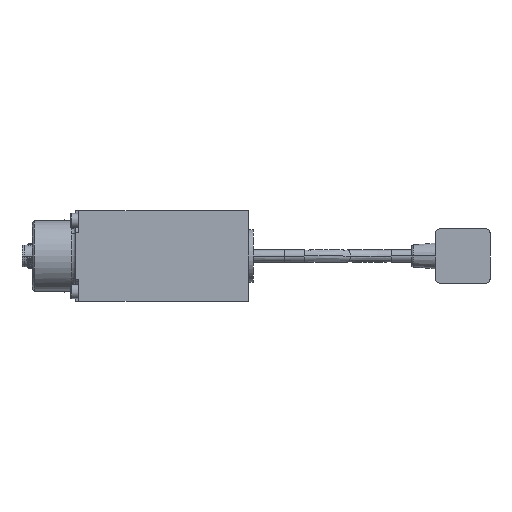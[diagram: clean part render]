
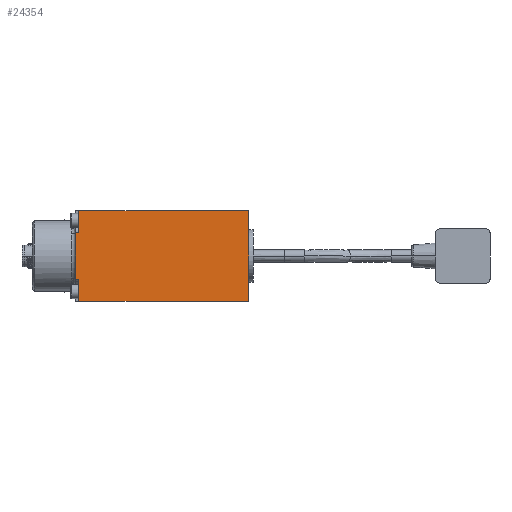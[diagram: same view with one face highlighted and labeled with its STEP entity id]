
A CAD part, front view. The second image highlights one B-rep face of the part: STEP entity #24354.
In plain terms, the highlighted planar face has unit normal (0, -1, 0).
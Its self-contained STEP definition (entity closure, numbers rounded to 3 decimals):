
#6593 = ORIENTED_EDGE ( 'NONE', *, *, #104221, .F. ) ;
#6595 = ORIENTED_EDGE ( 'NONE', *, *, #104079, .T. ) ;
#6597 = ORIENTED_EDGE ( 'NONE', *, *, #104219, .T. ) ;
#6599 = ORIENTED_EDGE ( 'NONE', *, *, #104223, .F. ) ;
#6601 = ORIENTED_EDGE ( 'NONE', *, *, #104202, .F. ) ;
#6603 = ORIENTED_EDGE ( 'NONE', *, *, #104225, .F. ) ;
#6605 = ORIENTED_EDGE ( 'NONE', *, *, #104228, .F. ) ;
#6609 = ORIENTED_EDGE ( 'NONE', *, *, #104214, .T. ) ;
#24354 = ADVANCED_FACE ( 'NONE', ( #97777 ), #99450, .F. ) ;
#47560 = EDGE_LOOP ( 'NONE', ( #6593, #6597, #6595, #6599, #6603, #6601, #6605, #6609 ) ) ;
#54880 = VERTEX_POINT ( 'NONE', #123850 ) ;
#54881 = VERTEX_POINT ( 'NONE', #123851 ) ;
#54918 = VERTEX_POINT ( 'NONE', #123888 ) ;
#54920 = VERTEX_POINT ( 'NONE', #123890 ) ;
#54923 = VERTEX_POINT ( 'NONE', #123893 ) ;
#54924 = VERTEX_POINT ( 'NONE', #123894 ) ;
#54925 = VERTEX_POINT ( 'NONE', #123895 ) ;
#54926 = VERTEX_POINT ( 'NONE', #123896 ) ;
#97777 = FACE_OUTER_BOUND ( 'NONE', #47560, .T. ) ;
#97786 = AXIS2_PLACEMENT_3D ( 'NONE', #99451, #99452, #99453 ) ;
#99450 = PLANE ( 'NONE',  #97786 ) ;
#99451 = CARTESIAN_POINT ( 'NONE',  ( 86., -22.5, 22.5 ) ) ;
#99452 = DIRECTION ( 'NONE',  ( 0., 1., 0. ) ) ;
#99453 = DIRECTION ( 'NONE',  ( 0., 0., 1. ) ) ;
#104079 = EDGE_CURVE ( 'NONE', #54881, #54880, #124220, .T. ) ;
#104202 = EDGE_CURVE ( 'NONE', #54920, #54918, #124382, .T. ) ;
#104214 = EDGE_CURVE ( 'NONE', #54924, #54923, #124397, .T. ) ;
#104219 = EDGE_CURVE ( 'NONE', #54925, #54881, #124403, .T. ) ;
#104221 = EDGE_CURVE ( 'NONE', #54925, #54923, #124406, .T. ) ;
#104223 = EDGE_CURVE ( 'NONE', #54926, #54880, #124409, .T. ) ;
#104225 = EDGE_CURVE ( 'NONE', #54918, #54926, #124412, .T. ) ;
#104228 = EDGE_CURVE ( 'NONE', #54924, #54920, #124415, .T. ) ;
#107862 = VECTOR ( 'NONE', #124222, 1000. ) ;
#107991 = VECTOR ( 'NONE', #124384, 1000. ) ;
#108006 = VECTOR ( 'NONE', #124399, 1000. ) ;
#108012 = VECTOR ( 'NONE', #124405, 1000. ) ;
#108014 = VECTOR ( 'NONE', #124408, 1000. ) ;
#108017 = VECTOR ( 'NONE', #124411, 1000. ) ;
#108020 = VECTOR ( 'NONE', #124414, 1000. ) ;
#108024 = VECTOR ( 'NONE', #124417, 1000. ) ;
#123850 = CARTESIAN_POINT ( 'NONE',  ( 0., -22.5, -11.68 ) ) ;
#123851 = CARTESIAN_POINT ( 'NONE',  ( 0., -22.5, 11.68 ) ) ;
#123888 = CARTESIAN_POINT ( 'NONE',  ( 1.5, -22.5, -22.5 ) ) ;
#123890 = CARTESIAN_POINT ( 'NONE',  ( 86., -22.5, -22.5 ) ) ;
#123893 = CARTESIAN_POINT ( 'NONE',  ( 1.5, -22.5, 22.5 ) ) ;
#123894 = CARTESIAN_POINT ( 'NONE',  ( 86., -22.5, 22.5 ) ) ;
#123895 = CARTESIAN_POINT ( 'NONE',  ( 1.5, -22.5, 11.68 ) ) ;
#123896 = CARTESIAN_POINT ( 'NONE',  ( 1.5, -22.5, -11.68 ) ) ;
#124220 = LINE ( 'NONE', #124221, #107862 ) ;
#124221 = CARTESIAN_POINT ( 'NONE',  ( 0., -22.5, 22.5 ) ) ;
#124222 = DIRECTION ( 'NONE',  ( 0., 0., -1. ) ) ;
#124382 = LINE ( 'NONE', #124383, #107991 ) ;
#124383 = CARTESIAN_POINT ( 'NONE',  ( 86., -22.5, -22.5 ) ) ;
#124384 = DIRECTION ( 'NONE',  ( -1., 0., 0. ) ) ;
#124397 = LINE ( 'NONE', #124398, #108006 ) ;
#124398 = CARTESIAN_POINT ( 'NONE',  ( 86., -22.5, 22.5 ) ) ;
#124399 = DIRECTION ( 'NONE',  ( -1., 0., 0. ) ) ;
#124403 = LINE ( 'NONE', #124404, #108012 ) ;
#124404 = CARTESIAN_POINT ( 'NONE',  ( 1.5, -22.5, 11.68 ) ) ;
#124405 = DIRECTION ( 'NONE',  ( -1., 0., 0. ) ) ;
#124406 = LINE ( 'NONE', #124407, #108014 ) ;
#124407 = CARTESIAN_POINT ( 'NONE',  ( 1.5, -22.5, 11.68 ) ) ;
#124408 = DIRECTION ( 'NONE',  ( 0., 0., 1. ) ) ;
#124409 = LINE ( 'NONE', #124410, #108017 ) ;
#124410 = CARTESIAN_POINT ( 'NONE',  ( 1.5, -22.5, -11.68 ) ) ;
#124411 = DIRECTION ( 'NONE',  ( -1., 0., 0. ) ) ;
#124412 = LINE ( 'NONE', #124413, #108020 ) ;
#124413 = CARTESIAN_POINT ( 'NONE',  ( 1.5, -22.5, -11.68 ) ) ;
#124414 = DIRECTION ( 'NONE',  ( 0., 0., 1. ) ) ;
#124415 = LINE ( 'NONE', #124416, #108024 ) ;
#124416 = CARTESIAN_POINT ( 'NONE',  ( 86., -22.5, 22.5 ) ) ;
#124417 = DIRECTION ( 'NONE',  ( 0., 0., -1. ) ) ;
